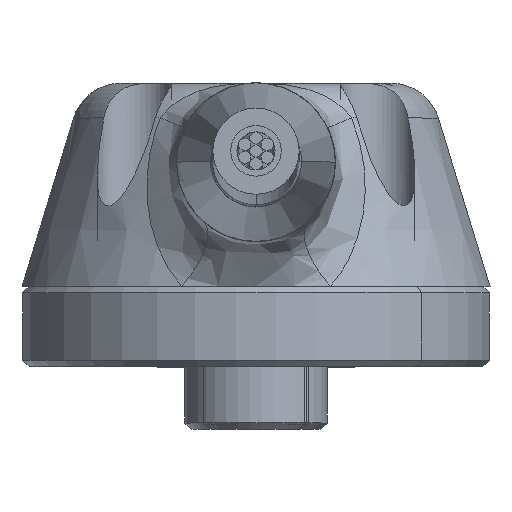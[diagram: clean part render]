
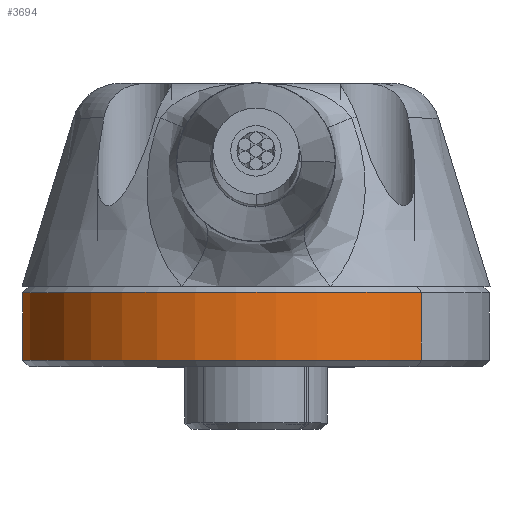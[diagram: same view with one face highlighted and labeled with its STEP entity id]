
A CAD part, top view. The second image highlights one B-rep face of the part: STEP entity #3694.
In plain terms, the highlighted cylindrical face has radius 19 mm (diameter 38 mm), a partial arc.
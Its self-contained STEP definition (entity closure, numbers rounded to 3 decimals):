
#90 = DIRECTION ( 'NONE',  ( 1., 0., 0. ) ) ;
#91 = DIRECTION ( 'NONE',  ( 0., 0., 1. ) ) ;
#92 = CARTESIAN_POINT ( 'NONE',  ( 0., 0., -19.509 ) ) ;
#93 = AXIS2_PLACEMENT_3D ( 'NONE', #92, #91, #90 ) ;
#94 = CIRCLE ( 'NONE', #93, 19. ) ;
#2443 = VERTEX_POINT ( 'NONE', #5107 ) ;
#2444 = VERTEX_POINT ( 'NONE', #5109 ) ;
#2465 = VERTEX_POINT ( 'NONE', #5407 ) ;
#2466 = VERTEX_POINT ( 'NONE', #5406 ) ;
#2651 = EDGE_CURVE ( 'NONE', #2444, #2465, #6658, .T. ) ;
#2654 = EDGE_CURVE ( 'NONE', #2443, #2466, #6712, .T. ) ;
#2709 = EDGE_CURVE ( 'NONE', #2444, #2443, #94, .T. ) ;
#3018 = FACE_OUTER_BOUND ( 'NONE', #3706, .T. ) ;
#3034 = DIRECTION ( 'NONE',  ( 1., 0., 0. ) ) ;
#3035 = DIRECTION ( 'NONE',  ( 0., 0., 1. ) ) ;
#3036 = AXIS2_PLACEMENT_3D ( 'NONE', #3039, #3035, #3034 ) ;
#3037 = CYLINDRICAL_SURFACE ( 'NONE', #3036, 19. ) ;
#3039 = CARTESIAN_POINT ( 'NONE',  ( 0., 0., 75.855 ) ) ;
#3689 = ORIENTED_EDGE ( 'NONE', *, *, #6837, .T. ) ;
#3691 = ORIENTED_EDGE ( 'NONE', *, *, #2654, .T. ) ;
#3692 = ORIENTED_EDGE ( 'NONE', *, *, #2709, .T. ) ;
#3694 = ADVANCED_FACE ( 'NONE', ( #3018 ), #3037, .T. ) ;
#3706 = EDGE_LOOP ( 'NONE', ( #3707, #3692, #3691, #3689 ) ) ;
#3707 = ORIENTED_EDGE ( 'NONE', *, *, #2651, .F. ) ;
#5107 = CARTESIAN_POINT ( 'NONE',  ( 19., 0., -19.509 ) ) ;
#5109 = CARTESIAN_POINT ( 'NONE',  ( -19., 0., -19.509 ) ) ;
#5239 = DIRECTION ( 'NONE',  ( -1., 0., 0. ) ) ;
#5240 = DIRECTION ( 'NONE',  ( 0., 0., -1. ) ) ;
#5241 = AXIS2_PLACEMENT_3D ( 'NONE', #5248, #5240, #5239 ) ;
#5242 = CIRCLE ( 'NONE', #5241, 19. ) ;
#5248 = CARTESIAN_POINT ( 'NONE',  ( 0., 0., -14.009 ) ) ;
#5406 = CARTESIAN_POINT ( 'NONE',  ( 19., 0., -14.009 ) ) ;
#5407 = CARTESIAN_POINT ( 'NONE',  ( -19., 0., -14.009 ) ) ;
#6655 = DIRECTION ( 'NONE',  ( 0., 0., 1. ) ) ;
#6656 = VECTOR ( 'NONE', #6655, 1000. ) ;
#6657 = CARTESIAN_POINT ( 'NONE',  ( -19., 0., 75.855 ) ) ;
#6658 = LINE ( 'NONE', #6657, #6656 ) ;
#6709 = DIRECTION ( 'NONE',  ( 0., 0., 1. ) ) ;
#6710 = VECTOR ( 'NONE', #6709, 1000. ) ;
#6711 = CARTESIAN_POINT ( 'NONE',  ( 19., 0., 75.855 ) ) ;
#6712 = LINE ( 'NONE', #6711, #6710 ) ;
#6837 = EDGE_CURVE ( 'NONE', #2466, #2465, #5242, .T. ) ;
